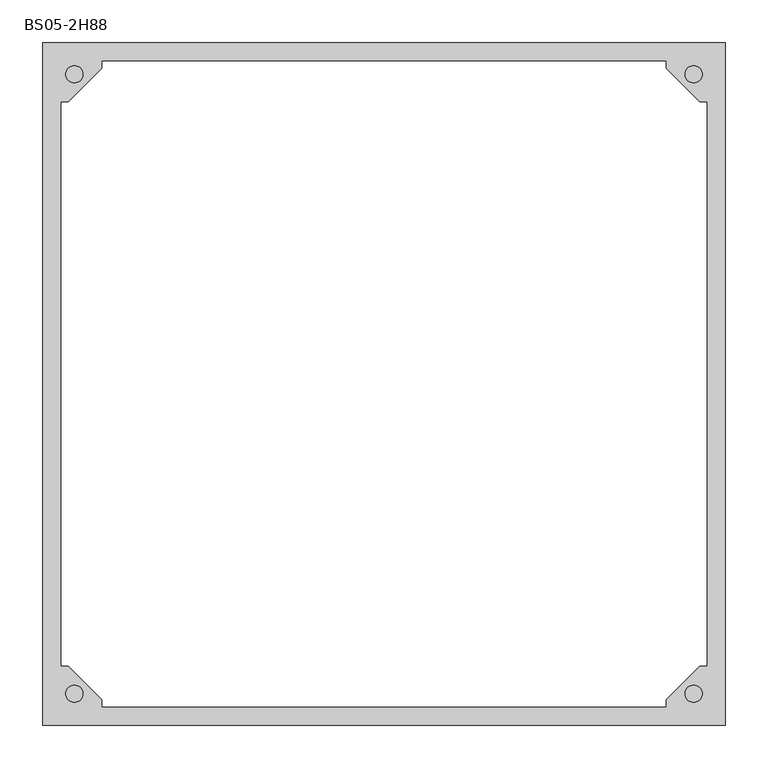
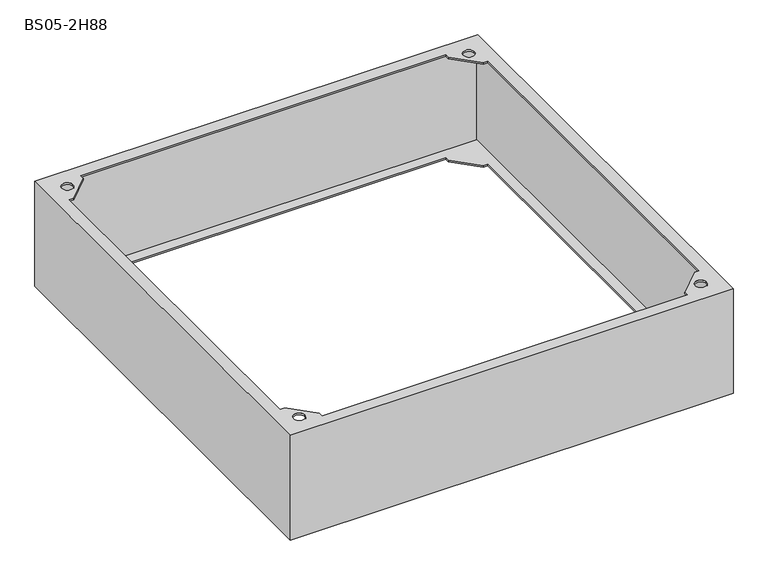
"""IFC4 building model written with IfcOpenShell, lengths in millimetres: proxy geometry, Цоколь для напольных шкафов : BS05-2H88."""

from ifc_helpers import new_model, si_unit, frame, origin, place, context, project, spatial, polyline, circle_curve, source, transform, mapped, element, save
from ifc_brep_helpers import plane_surface, revolved_surface, advanced_brep


def bs05_2h88_064c4a0a(model_context):
    return source(origin(), model_context, "Body", "AdvancedBrep", [
        advanced_brep(
        [(400.0, -400.0, 200.0), (400.0, -400.0, 197.0), (400.0, -400.0, 3.0), (400.0, -400.0, 0.0), (400.0, 400.0, 0.0), (400.0, 400.0, 3.0), (400.0, 400.0, 197.0), (400.0, 400.0, 200.0), (378.0, 330.0, 0.0), (378.0, -330.0, 0.0), (378.0, -330.0, 3.0), (378.0, 330.0, 3.0), (397.0, 397.0, 197.0), (397.0, 397.0, 3.0), (397.0, -397.0, 3.0), (397.0, -397.0, 197.0), (378.0, 330.0, 197.0), (378.0, -330.0, 197.0), (378.0, -330.0, 200.0), (378.0, 330.0, 200.0), (-400.0, -400.0, 200.0), (-400.0, -400.0, 197.0), (-400.0, -400.0, 3.0), (-400.0, -400.0, 0.0), (330.0, -378.0, 0.0), (-330.0, -378.0, 0.0), (-330.0, -378.0, 3.0), (330.0, -378.0, 3.0), (-397.0, -397.0, 3.0), (-397.0, -397.0, 197.0), (330.0, -378.0, 197.0), (-330.0, -378.0, 197.0), (-330.0, -378.0, 200.0), (330.0, -378.0, 200.0), (-400.0, 400.0, 200.0), (-400.0, 400.0, 197.0), (-400.0, 400.0, 3.0), (-400.0, 400.0, 0.0), (-378.0, -330.0, 0.0), (-378.0, 330.0, 0.0), (-378.0, 330.0, 3.0), (-378.0, -330.0, 3.0), (-397.0, 397.0, 3.0), (-397.0, 397.0, 197.0), (-378.0, -330.0, 197.0), (-378.0, 330.0, 197.0), (-378.0, 330.0, 200.0), (-378.0, -330.0, 200.0), (-330.0, -370.0, 200.0), (-370.0, -330.0, 200.0), (-370.0, 330.0, 200.0), (-330.0, 370.0, 200.0), (-330.0, 378.0, 200.0), (330.0, 378.0, 200.0), (330.0, 370.0, 200.0), (370.0, 330.0, 200.0), (370.0, -330.0, 200.0), (330.0, -370.0, 200.0), (-352.9289322, -362.9289322, 200.0), (-372.9289322, -362.9289322, 200.0), (372.9289322, -362.9289322, 200.0), (352.9289322, -362.9289322, 200.0), (-352.9289322, 362.9289322, 200.0), (-372.9289322, 362.9289322, 200.0), (372.9289322, 362.9289322, 200.0), (352.9289322, 362.9289322, 200.0), (370.0, 330.0, 0.0), (330.0, 370.0, 0.0), (330.0, 378.0, 0.0), (-330.0, 378.0, 0.0), (-330.0, 370.0, 0.0), (-370.0, 330.0, 0.0), (-370.0, -330.0, 0.0), (-330.0, -370.0, 0.0), (330.0, -370.0, 0.0), (370.0, -330.0, 0.0), (330.0, 378.0, 3.0), (-330.0, 378.0, 3.0), (370.0, -330.0, 3.0), (330.0, -370.0, 3.0), (-330.0, -370.0, 3.0), (-370.0, -330.0, 3.0), (-370.0, 330.0, 3.0), (-330.0, 370.0, 3.0), (330.0, 370.0, 3.0), (370.0, 330.0, 3.0), (-370.0, -330.0, 197.0), (-330.0, -370.0, 197.0), (330.0, -370.0, 197.0), (370.0, -330.0, 197.0), (370.0, 330.0, 197.0), (330.0, 370.0, 197.0), (330.0, 378.0, 197.0), (-330.0, 378.0, 197.0), (-330.0, 370.0, 197.0), (-370.0, 330.0, 197.0), (-352.9289322, -362.9289322, 197.0), (-372.9289322, -362.9289322, 197.0), (372.9289322, -362.9289322, 197.0), (352.9289322, -362.9289322, 197.0), (-352.9289322, 362.9289322, 197.0), (-372.9289322, 362.9289322, 197.0), (372.9289322, 362.9289322, 197.0), (352.9289322, 362.9289322, 197.0)],
        [
            (0, 1),
            (1, 2),
            (2, 3),
            (3, 4),
            (4, 5),
            (5, 6),
            (6, 7),
            (7, 0),
            (8, 9),
            (9, 10),
            (10, 11),
            (11, 8),
            (12, 13),
            (13, 14),
            (14, 15),
            (15, 12),
            (16, 17),
            (17, 18),
            (18, 19),
            (19, 16),
            (0, 20),
            (20, 21),
            (21, 22),
            (22, 23),
            (23, 3),
            (24, 25),
            (25, 26),
            (26, 27),
            (27, 24),
            (14, 28),
            (28, 29),
            (29, 15),
            (30, 31),
            (31, 32),
            (32, 33),
            (33, 30),
            (20, 34),
            (34, 35),
            (35, 36),
            (36, 37),
            (37, 23),
            (38, 39),
            (39, 40),
            (40, 41),
            (41, 38),
            (28, 42),
            (42, 43),
            (43, 29),
            (44, 45),
            (45, 46),
            (46, 47),
            (47, 44),
            (7, 34),
            (48, 49),
            (49, 47),
            (46, 50),
            (50, 51),
            (51, 52),
            (52, 53),
            (53, 54),
            (54, 55),
            (55, 19),
            (18, 56),
            (56, 57),
            (57, 33),
            (32, 48),
            (58, 59, circle_curve(frame((-362.9289322, -362.9289322, 200.0), z_axis=(0.0, 0.0, -1.0), x_axis=(-1.0, 0.0, 0.0)), 10.0)),
            (59, 58, circle_curve(frame((-362.9289322, -362.9289322, 200.0), z_axis=(0.0, 0.0, -1.0), x_axis=(-1.0, 0.0, 0.0)), 10.0)),
            (60, 61, circle_curve(frame((362.9289322, -362.9289322, 200.0), z_axis=(0.0, 0.0, -1.0), x_axis=(-1.0, 0.0, 0.0)), 10.0)),
            (61, 60, circle_curve(frame((362.9289322, -362.9289322, 200.0), z_axis=(0.0, 0.0, -1.0), x_axis=(-1.0, 0.0, 0.0)), 10.0)),
            (62, 63, circle_curve(frame((-362.9289322, 362.9289322, 200.0), z_axis=(0.0, 0.0, -1.0), x_axis=(-1.0, 0.0, 0.0)), 10.0)),
            (63, 62, circle_curve(frame((-362.9289322, 362.9289322, 200.0), z_axis=(0.0, 0.0, -1.0), x_axis=(-1.0, 0.0, 0.0)), 10.0)),
            (64, 65, circle_curve(frame((362.9289322, 362.9289322, 200.0), z_axis=(0.0, 0.0, -1.0), x_axis=(-1.0, 0.0, 0.0)), 10.0)),
            (65, 64, circle_curve(frame((362.9289322, 362.9289322, 200.0), z_axis=(0.0, 0.0, -1.0), x_axis=(-1.0, 0.0, 0.0)), 10.0)),
            (4, 37),
            (8, 66),
            (66, 67),
            (67, 68),
            (68, 69),
            (69, 70),
            (70, 71),
            (71, 39),
            (38, 72),
            (72, 73),
            (73, 25),
            (24, 74),
            (74, 75),
            (75, 9),
            (68, 76),
            (76, 77),
            (77, 69),
            (13, 42),
            (10, 78),
            (78, 79),
            (79, 27),
            (26, 80),
            (80, 81),
            (81, 41),
            (40, 82),
            (82, 83),
            (83, 77),
            (76, 84),
            (84, 85),
            (85, 11),
            (12, 43),
            (86, 87),
            (87, 31),
            (30, 88),
            (88, 89),
            (89, 17),
            (16, 90),
            (90, 91),
            (91, 92),
            (92, 93),
            (93, 94),
            (94, 95),
            (95, 45),
            (44, 86),
            (96, 97, circle_curve(frame((-362.9289322, -362.9289322, 197.0), z_axis=(0.0, 0.0, 1.0), x_axis=(-1.0, 0.0, 0.0)), 10.0)),
            (97, 96, circle_curve(frame((-362.9289322, -362.9289322, 197.0), z_axis=(0.0, 0.0, 1.0), x_axis=(-1.0, 0.0, 0.0)), 10.0)),
            (98, 99, circle_curve(frame((362.9289322, -362.9289322, 197.0), z_axis=(0.0, 0.0, 1.0), x_axis=(-1.0, 0.0, 0.0)), 10.0)),
            (99, 98, circle_curve(frame((362.9289322, -362.9289322, 197.0), z_axis=(0.0, 0.0, 1.0), x_axis=(-1.0, 0.0, 0.0)), 10.0)),
            (100, 101, circle_curve(frame((-362.9289322, 362.9289322, 197.0), z_axis=(0.0, 0.0, 1.0), x_axis=(-1.0, 0.0, 0.0)), 10.0)),
            (101, 100, circle_curve(frame((-362.9289322, 362.9289322, 197.0), z_axis=(0.0, 0.0, 1.0), x_axis=(-1.0, 0.0, 0.0)), 10.0)),
            (102, 103, circle_curve(frame((362.9289322, 362.9289322, 197.0), z_axis=(0.0, 0.0, 1.0), x_axis=(-1.0, 0.0, 0.0)), 10.0)),
            (103, 102, circle_curve(frame((362.9289322, 362.9289322, 197.0), z_axis=(0.0, 0.0, 1.0), x_axis=(-1.0, 0.0, 0.0)), 10.0)),
            (52, 93),
            (92, 53),
            (87, 48),
            (86, 49),
            (89, 56),
            (88, 57),
            (95, 50),
            (94, 51),
            (91, 54),
            (90, 55),
            (58, 96),
            (97, 59),
            (60, 98),
            (99, 61),
            (62, 100),
            (101, 63),
            (64, 102),
            (103, 65),
            (73, 80),
            (72, 81),
            (75, 78),
            (74, 79),
            (71, 82),
            (70, 83),
            (67, 84),
            (66, 85),
        ],
        [
            plane_surface(frame((400.0, 400.0, 200.0), z_axis=(1.0, 0.0, 0.0), x_axis=(0.0, -1.0, 0.0))),
            plane_surface(frame((378.0, 378.0, 0.0), z_axis=(-1.0, 0.0, 0.0), x_axis=(0.0, -1.0, 0.0))),
            plane_surface(frame((397.0, 397.0, 3.0), z_axis=(-1.0, 0.0, 0.0), x_axis=(0.0, -1.0, 0.0))),
            plane_surface(frame((378.0, 378.0, 197.0), z_axis=(-1.0, 0.0, 0.0), x_axis=(0.0, -1.0, 0.0))),
            plane_surface(frame((400.0, -400.0, 200.0), z_axis=(0.0, -1.0, 0.0), x_axis=(-1.0, 0.0, 0.0))),
            plane_surface(frame((378.0, -378.0, 0.0), z_axis=(0.0, 1.0, 0.0), x_axis=(-1.0, 0.0, 0.0))),
            plane_surface(frame((397.0, -397.0, 3.0), z_axis=(0.0, 1.0, 0.0), x_axis=(-1.0, 0.0, 0.0))),
            plane_surface(frame((378.0, -378.0, 197.0), z_axis=(0.0, 1.0, 0.0), x_axis=(-1.0, 0.0, 0.0))),
            plane_surface(frame((-400.0, -400.0, 200.0), z_axis=(-1.0, 0.0, 0.0), x_axis=(0.0, 1.0, 0.0))),
            plane_surface(frame((-378.0, -378.0, 0.0), z_axis=(1.0, 0.0, 0.0), x_axis=(0.0, 1.0, 0.0))),
            plane_surface(frame((-397.0, -397.0, 3.0), z_axis=(1.0, 0.0, 0.0), x_axis=(0.0, 1.0, 0.0))),
            plane_surface(frame((-378.0, -378.0, 197.0), z_axis=(1.0, 0.0, 0.0), x_axis=(0.0, 1.0, 0.0))),
            plane_surface(frame((-378.0, 378.0, 200.0), z_axis=(0.0, 0.0, 1.0), x_axis=(1.0, 0.0, 0.0))),
            plane_surface(frame((-400.0, 400.0, 200.0), z_axis=(0.0, 1.0, 0.0), x_axis=(1.0, 0.0, 0.0))),
            plane_surface(frame((-400.0, 400.0, 0.0), z_axis=(0.0, 0.0, -1.0), x_axis=(1.0, 0.0, 0.0))),
            plane_surface(frame((-378.0, 378.0, 0.0), z_axis=(0.0, -1.0, 0.0), x_axis=(1.0, 0.0, 0.0))),
            plane_surface(frame((-378.0, 378.0, 3.0), z_axis=(0.0, 0.0, 1.0), x_axis=(1.0, 0.0, 0.0))),
            plane_surface(frame((-397.0, 397.0, 3.0), z_axis=(0.0, -1.0, 0.0), x_axis=(1.0, 0.0, 0.0))),
            plane_surface(frame((-397.0, 397.0, 197.0), z_axis=(0.0, 0.0, -1.0), x_axis=(1.0, 0.0, 0.0))),
            plane_surface(frame((-378.0, 378.0, 197.0), z_axis=(0.0, -1.0, 0.0), x_axis=(1.0, 0.0, 0.0))),
            plane_surface(frame((-330.0, -400.0, 200.0), z_axis=(1.0, 0.0, 0.0), x_axis=(0.0, 0.0, -1.0))),
            plane_surface(frame((-330.0, -370.0, 200.0), z_axis=(0.7071067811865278, 0.7071067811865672, 0.0), x_axis=(0.0, 0.0, -1.0))),
            plane_surface(frame((-370.0, -330.0, 200.0), z_axis=(0.0, 1.0, 0.0), x_axis=(0.0, 0.0, -1.0))),
            plane_surface(frame((400.0, -330.0, 200.0), z_axis=(0.0, 1.0, 0.0), x_axis=(0.0, 0.0, -1.0))),
            plane_surface(frame((370.0, -330.0, 200.0), z_axis=(-0.7071067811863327, 0.7071067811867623, 0.0), x_axis=(0.0, 0.0, -1.0))),
            plane_surface(frame((330.0, -370.0, 200.0), z_axis=(-1.0, 0.0, 0.0), x_axis=(0.0, 0.0, -1.0))),
            plane_surface(frame((-400.0, 330.0, 200.0), z_axis=(0.0, -1.0, 0.0), x_axis=(0.0, 0.0, -1.0))),
            plane_surface(frame((-370.0, 330.0, 200.0), z_axis=(0.7071067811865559, -0.7071067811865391, 0.0), x_axis=(0.0, 0.0, -1.0))),
            plane_surface(frame((-330.0, 370.0, 200.0), z_axis=(1.0, 0.0, 0.0), x_axis=(0.0, 0.0, -1.0))),
            plane_surface(frame((330.0, 400.0, 200.0), z_axis=(-1.0, 0.0, 0.0), x_axis=(0.0, 0.0, -1.0))),
            plane_surface(frame((330.0, 370.0, 200.0), z_axis=(-0.7071067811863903, -0.7071067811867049, 0.0), x_axis=(0.0, 0.0, -1.0))),
            plane_surface(frame((370.0, 330.0, 200.0), z_axis=(0.0, -1.0, 0.0), x_axis=(0.0, 0.0, -1.0))),
            revolved_surface(polyline([(-372.9289322, -362.9289322, 197.0), (-372.9289322, -362.9289322, 200.0)]), (-362.9289322, -362.9289322, 200.0), (0.0, 0.0, -1.0)),
            revolved_surface(polyline([(352.9289322, -362.9289322, 197.0), (352.9289322, -362.9289322, 200.0)]), (362.9289322, -362.9289322, 200.0), (0.0, 0.0, -1.0)),
            revolved_surface(polyline([(-372.9289322, 362.9289322, 197.0), (-372.9289322, 362.9289322, 200.0)]), (-362.9289322, 362.9289322, 200.0), (0.0, 0.0, -1.0)),
            revolved_surface(polyline([(352.9289322, 362.9289322, 197.0), (352.9289322, 362.9289322, 200.0)]), (362.9289322, 362.9289322, 200.0), (0.0, 0.0, -1.0)),
            plane_surface(frame((-330.0, -400.0, 3.0), z_axis=(1.0, 0.0, 0.0), x_axis=(0.0, 0.0, -1.0))),
            plane_surface(frame((-330.0, -370.0, 3.0), z_axis=(0.7071067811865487, 0.7071067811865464, 0.0), x_axis=(0.0, 0.0, -1.0))),
            plane_surface(frame((-370.0, -330.0, 3.0), z_axis=(0.0, 1.0, 0.0), x_axis=(0.0, 0.0, -1.0))),
            plane_surface(frame((400.0, -330.0, 3.0), z_axis=(0.0, 1.0, 0.0), x_axis=(0.0, 0.0, -1.0))),
            plane_surface(frame((370.0, -330.0, 3.0), z_axis=(-0.7071067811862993, 0.7071067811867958, 0.0), x_axis=(0.0, 0.0, -1.0))),
            plane_surface(frame((330.0, -370.0, 3.0), z_axis=(-1.0, 0.0, 0.0), x_axis=(0.0, 0.0, -1.0))),
            plane_surface(frame((-400.0, 330.0, 3.0), z_axis=(0.0, -1.0, 0.0), x_axis=(0.0, 0.0, -1.0))),
            plane_surface(frame((-370.0, 330.0, 3.0), z_axis=(0.7071067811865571, -0.707106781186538, 0.0), x_axis=(0.0, 0.0, -1.0))),
            plane_surface(frame((-330.0, 370.0, 3.0), z_axis=(1.0, 0.0, 0.0), x_axis=(0.0, 0.0, -1.0))),
            plane_surface(frame((330.0, 400.0, 3.0), z_axis=(-1.0, 0.0, 0.0), x_axis=(0.0, 0.0, -1.0))),
            plane_surface(frame((330.0, 370.0, 3.0), z_axis=(-0.7071067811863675, -0.7071067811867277, 0.0), x_axis=(0.0, 0.0, -1.0))),
            plane_surface(frame((370.0, 330.0, 3.0), z_axis=(0.0, -1.0, 0.0), x_axis=(0.0, 0.0, -1.0))),
        ],
        [
            (0, [[1, 2, 3, 4, 5, 6, 7, 8]]),
            (1, [[9, 10, 11, 12]]),
            (2, [[13, 14, 15, 16]]),
            (3, [[17, 18, 19, 20]]),
            (4, [[-1, 21, 22, 23, 24, 25, -3, -2]]),
            (5, [[26, 27, 28, 29]]),
            (6, [[-15, 30, 31, 32]]),
            (7, [[33, 34, 35, 36]]),
            (8, [[-22, 37, 38, 39, 40, 41, -24, -23]]),
            (9, [[42, 43, 44, 45]]),
            (10, [[-31, 46, 47, 48]]),
            (11, [[49, 50, 51, 52]]),
            (12, [[-8, 53, -37, -21], [54, 55, -51, 56, 57, 58, 59, 60, 61, 62, -19, 63, 64, 65, -35, 66], [67, 68], [69, 70], [71, 72], [73, 74]]),
            (13, [[-38, -53, -7, -6, -5, 75, -40, -39]]),
            (14, [[-4, -25, -41, -75], [-9, 76, 77, 78, 79, 80, 81, 82, -42, 83, 84, 85, -26, 86, 87, 88]]),
            (15, [[-79, 89, 90, 91]]),
            (16, [[-14, 92, -46, -30], [-11, 93, 94, 95, -28, 96, 97, 98, -44, 99, 100, 101, -90, 102, 103, 104]]),
            (17, [[-92, -13, 105, -47]]),
            (18, [[-32, -48, -105, -16], [106, 107, -33, 108, 109, 110, -17, 111, 112, 113, 114, 115, 116, 117, -49, 118], [119, 120], [121, 122], [123, 124], [125, 126]]),
            (19, [[-59, 127, -114, 128]]),
            (20, [[129, -66, -34, -107]]),
            (21, [[-54, -129, -106, 130]]),
            (22, [[-130, -118, -52, -55]]),
            (23, [[131, -63, -18, -110]]),
            (24, [[-64, -131, -109, 132]]),
            (25, [[-132, -108, -36, -65]]),
            (26, [[133, -56, -50, -117]]),
            (27, [[-57, -133, -116, 134]]),
            (28, [[-134, -115, -127, -58]]),
            (29, [[135, -60, -128, -113]]),
            (30, [[-61, -135, -112, 136]]),
            (31, [[-136, -111, -20, -62]]),
            (32, [[-67, 137, -120, 138]]),
            (32, [[-68, -138, -119, -137]]),
            (33, [[-69, 139, -122, 140]]),
            (33, [[-70, -140, -121, -139]]),
            (34, [[-71, 141, -124, 142]]),
            (34, [[-72, -142, -123, -141]]),
            (35, [[-73, 143, -126, 144]]),
            (35, [[-74, -144, -125, -143]]),
            (36, [[145, -96, -27, -85]]),
            (37, [[-97, -145, -84, 146]]),
            (38, [[-146, -83, -45, -98]]),
            (39, [[147, -93, -10, -88]]),
            (40, [[-94, -147, -87, 148]]),
            (41, [[-148, -86, -29, -95]]),
            (42, [[149, -99, -43, -82]]),
            (43, [[-100, -149, -81, 150]]),
            (44, [[-150, -80, -91, -101]]),
            (45, [[151, -102, -89, -78]]),
            (46, [[-103, -151, -77, 152]]),
            (47, [[-152, -76, -12, -104]]),
        ],
    ),
    ])


if __name__ == "__main__":
    model = new_model("IFC4")
    model_context = context("Model", 3, world=origin())
    ifc_project = project(units=[si_unit("LENGTHUNIT", "METRE", prefix="MILLI")], contexts=[model_context])
    site = spatial("IfcSite", under=ifc_project)
    building = spatial("IfcBuilding", under=site)
    placement = place(None, origin())
    bs05_2h88_shape = bs05_2h88_064c4a0a(model_context)
    element("IfcBuildingElementProxy", 1, Name="Цоколь для напольных шкафов : BS05-2H88", ObjectType="Цоколь для напольных шкафов : BS05-2H88", at=placement, inside=building, context=model_context, shape_type="MappedRepresentation", body=[
        mapped(bs05_2h88_shape, transform((0.0, 0.0, 0.0), x_axis=(1.0, 0.0, 0.0), y_axis=(0.0, 1.0, 0.0), z_axis=(0.0, 0.0, 1.0))),
    ])
    save(model, "model.ifc")
